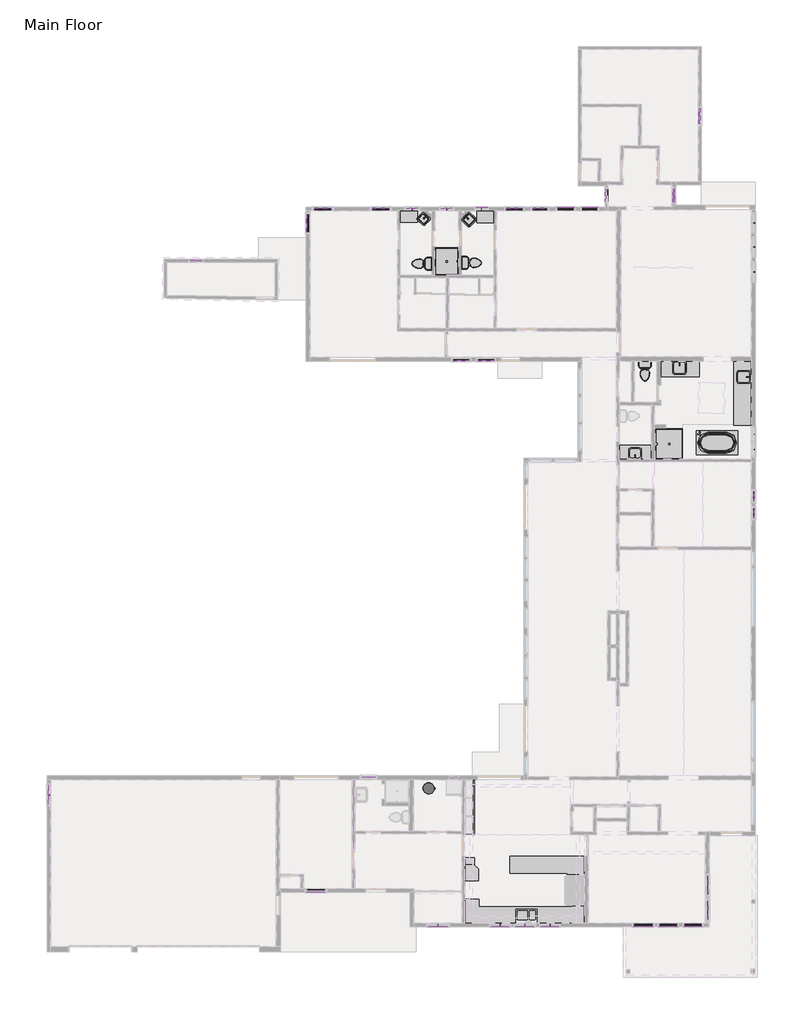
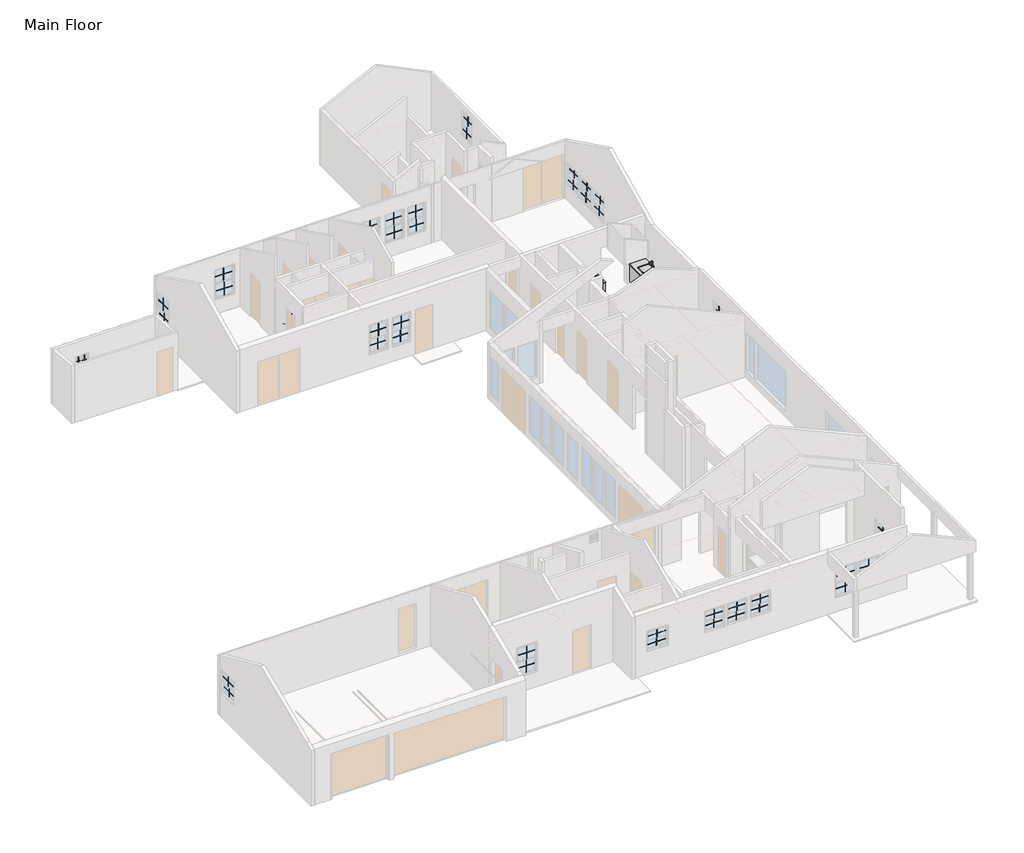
# One storey, part 7 of 7: 79 proxies, 11 flow terminals.
"""IFC4 building model written with IfcOpenShell, lengths in millimetres."""

from ifc_helpers import new_model, si_unit, origin, place, context, project, spatial, transform, mapped, element, save
from components import countertop_corner_shape_base_default_1_5ff81953, countertop_rectangle_shape_base_default_1_f55037a1, countertop_rectangle_shape_base_default_1_9c101704, countertop_rectangle_shape_base_default_1_0ea1dead, countertop_rectangle_shape_base_default_1_eeff67ab, countertop_rectangle_shape_base_default_1_e193b94f, countertop_rectangle_shape_base_default_1_9bd07cfa, countertop_rectangle_shape_base_default_1_c1775fbe, countertop_u_shape_base_default_1_79f53b93, default_1_c051f466, hot_water_heater_default_1_f8e76a24, muntin_pattern_2x2_muntin_pattern_2x2_b8ba09c9, muntin_pattern_2x2_muntin_pattern_2x2_ce8df0db, muntin_pattern_2x2_muntin_pattern_2x2_b7d8ecc0, muntin_pattern_2x2_muntin_pattern_2x2_f7ef5741, muntin_pattern_2x2_muntin_pattern_2x2_0d29cc6d, muntin_pattern_2x2_muntin_pattern_2x2_e32dc648, muntin_pattern_2x2_muntin_pattern_2x2_d0d6a7fa, muntin_pattern_2x2_muntin_pattern_2x2_25a0df6c, muntin_pattern_2x2_muntin_pattern_2x2_a7549ec0, muntin_pattern_2x2_muntin_pattern_2x2_6fe0be13, muntin_pattern_2x2_muntin_pattern_2x2_e23ef482, muntin_pattern_2x2_muntin_pattern_2x2_e6411d05, muntin_pattern_2x2_muntin_pattern_2x2_962a584f, muntin_pattern_2x2_muntin_pattern_2x2_d71a372d, muntin_pattern_2x2_muntin_pattern_2x2_4ae90856, muntin_pattern_2x2_muntin_pattern_2x2_d55a54ed, muntin_pattern_2x2_muntin_pattern_2x2_64ee3ad5, muntin_pattern_2x2_muntin_pattern_2x2_c450b4c2, muntin_pattern_2x2_muntin_pattern_2x2_9d8ca844, bath_shower_basin_rectangular_default_1_b7830e28, bath_shower_basin_rectangular_default_1_5c73739b, bath_basin_do_not_use_500_x_440mm_3081fc1e, bath_basin_do_not_use_500_x_440mm_e641f4fc, bath_basin_do_not_use_500_x_440mm_190d0d28, bath_basin_do_not_use_500_x_440mm_d66f773a, bath_bathtub_angled_default_1_4eb5927c, default_1_a9700879, toilet_default_1_5cb52bd4, toilet_default_1_183bbd19

model = new_model("IFC4")

# Units and contexts
model_context = context("Model", 3, world=origin())
ifc_project = project(units=[si_unit("LENGTHUNIT", "METRE", prefix="MILLI")], contexts=[model_context])

# Site, building, storey
site = spatial("IfcSite", under=ifc_project)
building = spatial("IfcBuilding", under=site)
storey = spatial("IfcBuildingStorey", under=building, Name="Main Floor", Elevation=0.0)

# Proxies
placement = place(None, origin())
countertop_corner_shape_base_default_1_shape = countertop_corner_shape_base_default_1_5ff81953(model_context)
element("IfcBuildingElementProxy", 1, Name="Countertop- Corner, Shape base : Default 1", ObjectType="Countertop- Corner, Shape base : Default 1", at=placement, inside=storey, context=model_context, shape_type="MappedRepresentation", body=[
    mapped(countertop_corner_shape_base_default_1_shape, transform((3895.0343008, -7499.9247068, 0.0), x_axis=(1.0, 0.0, 0.0), y_axis=(0.0, 1.0, 0.0), z_axis=(0.0, 0.0, 1.0))),
])
countertop_rectangle_shape_base_default_1_shape = countertop_rectangle_shape_base_default_1_f55037a1(model_context)
element("IfcBuildingElementProxy", 2, Name="Countertop- Rectangle shape base : Default 1", ObjectType="Countertop- Rectangle shape base : Default 1", at=placement, inside=storey, context=model_context, shape_type="MappedRepresentation", body=[
    mapped(countertop_rectangle_shape_base_default_1_shape, transform((14230.1593008, 13293.1502932, 0.0), x_axis=(-1.0, 0.0, 0.0), y_axis=(0.0, -1.0, 0.0), z_axis=(0.0, 0.0, 1.0))),
])
countertop_rectangle_shape_base_default_1_2_shape = countertop_rectangle_shape_base_default_1_9c101704(model_context)
element("IfcBuildingElementProxy", 3, Name="Countertop- Rectangle shape base : Default 1", ObjectType="Countertop- Rectangle shape base : Default 1", at=placement, inside=storey, context=model_context, shape_type="MappedRepresentation", body=[
    mapped(countertop_rectangle_shape_base_default_1_2_shape, transform((1873.0593008, 18614.4502932, 0.0), x_axis=(1.0, 0.0, 0.0), y_axis=(0.0, 1.0, 0.0), z_axis=(0.0, 0.0, 1.0))),
])
countertop_rectangle_shape_base_default_1_3_shape = countertop_rectangle_shape_base_default_1_0ea1dead(model_context)
element("IfcBuildingElementProxy", 4, Name="Countertop- Rectangle shape base : Default 1", ObjectType="Countertop- Rectangle shape base : Default 1", at=placement, inside=storey, context=model_context, shape_type="MappedRepresentation", body=[
    mapped(countertop_rectangle_shape_base_default_1_3_shape, transform((6470.4593008, 19363.7502932, 0.0), x_axis=(-1.0, 0.0, 0.0), y_axis=(0.0, -1.0, 0.0), z_axis=(0.0, 0.0, 1.0))),
])
countertop_rectangle_shape_base_default_1_4_shape = countertop_rectangle_shape_base_default_1_eeff67ab(model_context)
element("IfcBuildingElementProxy", 5, Name="Countertop- Rectangle shape base : Default 1", ObjectType="Countertop- Rectangle shape base : Default 1", at=placement, inside=storey, context=model_context, shape_type="MappedRepresentation", body=[
    mapped(countertop_rectangle_shape_base_default_1_4_shape, transform((16354.2343008, 11181.7752932, 0.0), x_axis=(0.0, 1.0, 0.0), y_axis=(-1.0, 0.0, 0.0), z_axis=(0.0, 0.0, 1.0))),
])
countertop_rectangle_shape_base_default_1_5_shape = countertop_rectangle_shape_base_default_1_e193b94f(model_context)
element("IfcBuildingElementProxy", 6, Name="Countertop- Rectangle shape base : Default 1", ObjectType="Countertop- Rectangle shape base : Default 1", at=placement, inside=storey, context=model_context, shape_type="MappedRepresentation", body=[
    mapped(countertop_rectangle_shape_base_default_1_5_shape, transform((10928.1593008, 9184.7002932, 0.0), x_axis=(1.0, 0.0, 0.0), y_axis=(0.0, 1.0, 0.0), z_axis=(0.0, 0.0, 1.0))),
])
countertop_rectangle_shape_base_default_1_6_shape = countertop_rectangle_shape_base_default_1_9bd07cfa(model_context)
element("IfcBuildingElementProxy", 7, Name="Countertop- Rectangle shape base : Default 1", ObjectType="Countertop- Rectangle shape base : Default 1", at=placement, inside=storey, context=model_context, shape_type="MappedRepresentation", body=[
    mapped(countertop_rectangle_shape_base_default_1_6_shape, transform((4308.2809835, -7122.0997068, 0.0), x_axis=(1.0, 0.0, 0.0), y_axis=(0.0, 1.0, 0.0), z_axis=(0.0, 0.0, 1.0))),
])
countertop_rectangle_shape_base_default_1_7_shape = countertop_rectangle_shape_base_default_1_c1775fbe(model_context)
element("IfcBuildingElementProxy", 8, Name="Countertop- Rectangle shape base : Default 1", ObjectType="Countertop- Rectangle shape base : Default 1", at=placement, inside=storey, context=model_context, shape_type="MappedRepresentation", body=[
    mapped(countertop_rectangle_shape_base_default_1_7_shape, transform((4689.2843008, -3807.3997068, 0.0), x_axis=(0.0, -1.0, 0.0), y_axis=(1.0, 0.0, 0.0), z_axis=(0.0, 0.0, 1.0))),
])
countertop_u_shape_base_default_1_shape = countertop_u_shape_base_default_1_79f53b93(model_context)
element("IfcBuildingElementProxy", 9, Name="Countertop- U Shape base : Default 1", ObjectType="Countertop- U Shape base : Default 1", at=placement, inside=storey, context=model_context, shape_type="MappedRepresentation", body=[
    mapped(countertop_u_shape_base_default_1_shape, transform((7654.2343008, -9201.7247068, 0.0), x_axis=(1.0, 0.0, 0.0), y_axis=(0.0, 1.0, 0.0), z_axis=(0.0, 0.0, 1.0))),
])
default_1_shape = default_1_c051f466(model_context)
element("IfcBuildingElementProxy", 10, Name="Countertop- L  Shape base : Default 1", ObjectType="Countertop- L  Shape base : Default 1", at=placement, inside=storey, context=model_context, shape_type="MappedRepresentation", body=[
    mapped(default_1_shape, transform((8214.0343008, -6560.1247068, 0.0), x_axis=(-1.0, 0.0, 0.0), y_axis=(0.0, -1.0, 0.0), z_axis=(0.0, 0.0, 1.0))),
])
hot_water_heater_default_1_shape = hot_water_heater_default_1_f8e76a24(model_context)
element("IfcBuildingElementProxy", 11, Name="Hot Water Heater : Default 1", ObjectType="Hot Water Heater : Default 1", at=placement, inside=storey, context=model_context, shape_type="MappedRepresentation", body=[
    mapped(hot_water_heater_default_1_shape, transform((3438.3343008, -3829.6247068, 0.0), x_axis=(0.0, 1.0, 0.0), y_axis=(-1.0, 0.0, 0.0), z_axis=(0.0, 0.0, 1.0))),
])
muntin_pattern_2x2_muntin_pattern_2x2_shape = muntin_pattern_2x2_muntin_pattern_2x2_b8ba09c9(model_context)
element("IfcBuildingElementProxy", 12, Name="Muntin Pattern_2x2 : Muntin Pattern_2x2", ObjectType="Muntin Pattern_2x2 : Muntin Pattern_2x2", at=placement, inside=storey, context=model_context, shape_type="MappedRepresentation", body=[
    mapped(muntin_pattern_2x2_muntin_pattern_2x2_shape, transform((14280.9593008, 22980.9081932, 1749.425), x_axis=(0.0, -1.0, 0.0), y_axis=(1.0, 0.0, 0.0), z_axis=(0.0, 0.0, 1.0))),
])
element("IfcBuildingElementProxy", 13, Name="Muntin Pattern_2x2 : Muntin Pattern_2x2", ObjectType="Muntin Pattern_2x2 : Muntin Pattern_2x2", at=placement, inside=storey, context=model_context, shape_type="MappedRepresentation", body=[
    mapped(muntin_pattern_2x2_muntin_pattern_2x2_shape, transform((14236.5093008, 22980.9081932, 1219.2), x_axis=(0.0, -1.0, 0.0), y_axis=(1.0, 0.0, 0.0), z_axis=(0.0, 0.0, 1.0))),
])
muntin_pattern_2x2_muntin_pattern_2x2_2_shape = muntin_pattern_2x2_muntin_pattern_2x2_ce8df0db(model_context)
element("IfcBuildingElementProxy", 14, Name="Muntin Pattern_2x2 : Muntin Pattern_2x2", ObjectType="Muntin Pattern_2x2 : Muntin Pattern_2x2", at=placement, inside=storey, context=model_context, shape_type="MappedRepresentation", body=[
    mapped(muntin_pattern_2x2_muntin_pattern_2x2_2_shape, transform((13258.6093008, 19814.3942932, 1787.525), x_axis=(0.0, -1.0, 0.0), y_axis=(1.0, 0.0, 0.0), z_axis=(0.0, 0.0, 1.0))),
])
element("IfcBuildingElementProxy", 15, Name="Muntin Pattern_2x2 : Muntin Pattern_2x2", ObjectType="Muntin Pattern_2x2 : Muntin Pattern_2x2", at=placement, inside=storey, context=model_context, shape_type="MappedRepresentation", body=[
    mapped(muntin_pattern_2x2_muntin_pattern_2x2_2_shape, transform((13214.1593008, 19814.3942932, 1473.2), x_axis=(0.0, -1.0, 0.0), y_axis=(1.0, 0.0, 0.0), z_axis=(0.0, 0.0, 1.0))),
])
muntin_pattern_2x2_muntin_pattern_2x2_3_shape = muntin_pattern_2x2_muntin_pattern_2x2_b7d8ecc0(model_context)
element("IfcBuildingElementProxy", 16, Name="Muntin Pattern_2x2 : Muntin Pattern_2x2", ObjectType="Muntin Pattern_2x2 : Muntin Pattern_2x2", at=placement, inside=storey, context=model_context, shape_type="MappedRepresentation", body=[
    mapped(muntin_pattern_2x2_muntin_pattern_2x2_3_shape, transform((10521.7593008, 19812.0714932, 1495.425), x_axis=(0.0, 1.0, 0.0), y_axis=(-1.0, 0.0, 0.0), z_axis=(0.0, 0.0, 1.0))),
])
element("IfcBuildingElementProxy", 17, Name="Muntin Pattern_2x2 : Muntin Pattern_2x2", ObjectType="Muntin Pattern_2x2 : Muntin Pattern_2x2", at=placement, inside=storey, context=model_context, shape_type="MappedRepresentation", body=[
    mapped(muntin_pattern_2x2_muntin_pattern_2x2_3_shape, transform((10566.2093008, 19812.0714932, 889.0), x_axis=(0.0, 1.0, 0.0), y_axis=(-1.0, 0.0, 0.0), z_axis=(0.0, 0.0, 1.0))),
])
muntin_pattern_2x2_muntin_pattern_2x2_4_shape = muntin_pattern_2x2_muntin_pattern_2x2_f7ef5741(model_context)
element("IfcBuildingElementProxy", 18, Name="Muntin Pattern_2x2 : Muntin Pattern_2x2", ObjectType="Muntin Pattern_2x2 : Muntin Pattern_2x2", at=placement, inside=storey, context=model_context, shape_type="MappedRepresentation", body=[
    mapped(muntin_pattern_2x2_muntin_pattern_2x2_4_shape, transform((8908.7847008, 19319.3002932, 1343.025), x_axis=(1.0, 0.0, 0.0), y_axis=(0.0, 1.0, 0.0), z_axis=(0.0, 0.0, 1.0))),
])
element("IfcBuildingElementProxy", 19, Name="Muntin Pattern_2x2 : Muntin Pattern_2x2", ObjectType="Muntin Pattern_2x2 : Muntin Pattern_2x2", at=placement, inside=storey, context=model_context, shape_type="MappedRepresentation", body=[
    mapped(muntin_pattern_2x2_muntin_pattern_2x2_4_shape, transform((8908.7847008, 19274.8502932, 736.6), x_axis=(1.0, 0.0, 0.0), y_axis=(0.0, 1.0, 0.0), z_axis=(0.0, 0.0, 1.0))),
])
element("IfcBuildingElementProxy", 20, Name="Muntin Pattern_2x2 : Muntin Pattern_2x2", ObjectType="Muntin Pattern_2x2 : Muntin Pattern_2x2", at=placement, inside=storey, context=model_context, shape_type="MappedRepresentation", body=[
    mapped(muntin_pattern_2x2_muntin_pattern_2x2_4_shape, transform((6863.6860008, 19319.3002932, 1343.025), x_axis=(1.0, 0.0, 0.0), y_axis=(0.0, 1.0, 0.0), z_axis=(0.0, 0.0, 1.0))),
])
element("IfcBuildingElementProxy", 21, Name="Muntin Pattern_2x2 : Muntin Pattern_2x2", ObjectType="Muntin Pattern_2x2 : Muntin Pattern_2x2", at=placement, inside=storey, context=model_context, shape_type="MappedRepresentation", body=[
    mapped(muntin_pattern_2x2_muntin_pattern_2x2_4_shape, transform((6863.6860008, 19274.8502932, 736.6), x_axis=(1.0, 0.0, 0.0), y_axis=(0.0, 1.0, 0.0), z_axis=(0.0, 0.0, 1.0))),
])
muntin_pattern_2x2_muntin_pattern_2x2_5_shape = muntin_pattern_2x2_muntin_pattern_2x2_0d29cc6d(model_context)
element("IfcBuildingElementProxy", 22, Name="Muntin Pattern_2x2 : Muntin Pattern_2x2", ObjectType="Muntin Pattern_2x2 : Muntin Pattern_2x2", at=placement, inside=storey, context=model_context, shape_type="MappedRepresentation", body=[
    mapped(muntin_pattern_2x2_muntin_pattern_2x2_5_shape, transform((9864.6013008, 19319.3002932, 1343.025), x_axis=(1.0, 0.0, 0.0), y_axis=(0.0, 1.0, 0.0), z_axis=(0.0, 0.0, 1.0))),
])
element("IfcBuildingElementProxy", 23, Name="Muntin Pattern_2x2 : Muntin Pattern_2x2", ObjectType="Muntin Pattern_2x2 : Muntin Pattern_2x2", at=placement, inside=storey, context=model_context, shape_type="MappedRepresentation", body=[
    mapped(muntin_pattern_2x2_muntin_pattern_2x2_5_shape, transform((9864.6013008, 19274.8502932, 736.6), x_axis=(1.0, 0.0, 0.0), y_axis=(0.0, 1.0, 0.0), z_axis=(0.0, 0.0, 1.0))),
])
element("IfcBuildingElementProxy", 24, Name="Muntin Pattern_2x2 : Muntin Pattern_2x2", ObjectType="Muntin Pattern_2x2 : Muntin Pattern_2x2", at=placement, inside=storey, context=model_context, shape_type="MappedRepresentation", body=[
    mapped(muntin_pattern_2x2_muntin_pattern_2x2_5_shape, transform((7877.3708008, 19319.3002932, 1343.025), x_axis=(1.0, 0.0, 0.0), y_axis=(0.0, 1.0, 0.0), z_axis=(0.0, 0.0, 1.0))),
])
element("IfcBuildingElementProxy", 25, Name="Muntin Pattern_2x2 : Muntin Pattern_2x2", ObjectType="Muntin Pattern_2x2 : Muntin Pattern_2x2", at=placement, inside=storey, context=model_context, shape_type="MappedRepresentation", body=[
    mapped(muntin_pattern_2x2_muntin_pattern_2x2_5_shape, transform((7877.3708008, 19274.8502932, 736.6), x_axis=(1.0, 0.0, 0.0), y_axis=(0.0, 1.0, 0.0), z_axis=(0.0, 0.0, 1.0))),
])
muntin_pattern_2x2_muntin_pattern_2x2_6_shape = muntin_pattern_2x2_muntin_pattern_2x2_e32dc648(model_context)
element("IfcBuildingElementProxy", 26, Name="Muntin Pattern_2x2 : Muntin Pattern_2x2", ObjectType="Muntin Pattern_2x2 : Muntin Pattern_2x2", at=placement, inside=storey, context=model_context, shape_type="MappedRepresentation", body=[
    mapped(muntin_pattern_2x2_muntin_pattern_2x2_6_shape, transform((5547.7620008, 19319.3002932, 1609.725), x_axis=(1.0, 0.0, 0.0), y_axis=(0.0, 1.0, 0.0), z_axis=(0.0, 0.0, 1.0))),
])
element("IfcBuildingElementProxy", 27, Name="Muntin Pattern_2x2 : Muntin Pattern_2x2", ObjectType="Muntin Pattern_2x2 : Muntin Pattern_2x2", at=placement, inside=storey, context=model_context, shape_type="MappedRepresentation", body=[
    mapped(muntin_pattern_2x2_muntin_pattern_2x2_6_shape, transform((5547.7620008, 19274.8502932, 1168.4), x_axis=(1.0, 0.0, 0.0), y_axis=(0.0, 1.0, 0.0), z_axis=(0.0, 0.0, 1.0))),
])
element("IfcBuildingElementProxy", 28, Name="Muntin Pattern_2x2 : Muntin Pattern_2x2", ObjectType="Muntin Pattern_2x2 : Muntin Pattern_2x2", at=placement, inside=storey, context=model_context, shape_type="MappedRepresentation", body=[
    mapped(muntin_pattern_2x2_muntin_pattern_2x2_6_shape, transform((4162.4188008, 19319.3002932, 1609.725), x_axis=(1.0, 0.0, 0.0), y_axis=(0.0, 1.0, 0.0), z_axis=(0.0, 0.0, 1.0))),
])
element("IfcBuildingElementProxy", 29, Name="Muntin Pattern_2x2 : Muntin Pattern_2x2", ObjectType="Muntin Pattern_2x2 : Muntin Pattern_2x2", at=placement, inside=storey, context=model_context, shape_type="MappedRepresentation", body=[
    mapped(muntin_pattern_2x2_muntin_pattern_2x2_6_shape, transform((4162.4188008, 19274.8502932, 1168.4), x_axis=(1.0, 0.0, 0.0), y_axis=(0.0, 1.0, 0.0), z_axis=(0.0, 0.0, 1.0))),
])
element("IfcBuildingElementProxy", 30, Name="Muntin Pattern_2x2 : Muntin Pattern_2x2", ObjectType="Muntin Pattern_2x2 : Muntin Pattern_2x2", at=placement, inside=storey, context=model_context, shape_type="MappedRepresentation", body=[
    mapped(muntin_pattern_2x2_muntin_pattern_2x2_6_shape, transform((2779.9500008, 19319.3002932, 1609.725), x_axis=(1.0, 0.0, 0.0), y_axis=(0.0, 1.0, 0.0), z_axis=(0.0, 0.0, 1.0))),
])
element("IfcBuildingElementProxy", 31, Name="Muntin Pattern_2x2 : Muntin Pattern_2x2", ObjectType="Muntin Pattern_2x2 : Muntin Pattern_2x2", at=placement, inside=storey, context=model_context, shape_type="MappedRepresentation", body=[
    mapped(muntin_pattern_2x2_muntin_pattern_2x2_6_shape, transform((2779.9500008, 19274.8502932, 1168.4), x_axis=(1.0, 0.0, 0.0), y_axis=(0.0, 1.0, 0.0), z_axis=(0.0, 0.0, 1.0))),
])
muntin_pattern_2x2_muntin_pattern_2x2_7_shape = muntin_pattern_2x2_muntin_pattern_2x2_d0d6a7fa(model_context)
element("IfcBuildingElementProxy", 32, Name="Muntin Pattern_2x2 : Muntin Pattern_2x2", ObjectType="Muntin Pattern_2x2 : Muntin Pattern_2x2", at=placement, inside=storey, context=model_context, shape_type="MappedRepresentation", body=[
    mapped(muntin_pattern_2x2_muntin_pattern_2x2_7_shape, transform((1525.9622008, 19319.3002932, 1368.425), x_axis=(1.0, 0.0, 0.0), y_axis=(0.0, 1.0, 0.0), z_axis=(0.0, 0.0, 1.0))),
])
element("IfcBuildingElementProxy", 33, Name="Muntin Pattern_2x2 : Muntin Pattern_2x2", ObjectType="Muntin Pattern_2x2 : Muntin Pattern_2x2", at=placement, inside=storey, context=model_context, shape_type="MappedRepresentation", body=[
    mapped(muntin_pattern_2x2_muntin_pattern_2x2_7_shape, transform((1525.9622008, 19274.8502932, 736.6), x_axis=(1.0, 0.0, 0.0), y_axis=(0.0, 1.0, 0.0), z_axis=(0.0, 0.0, 1.0))),
])
element("IfcBuildingElementProxy", 34, Name="Muntin Pattern_2x2 : Muntin Pattern_2x2", ObjectType="Muntin Pattern_2x2 : Muntin Pattern_2x2", at=placement, inside=storey, context=model_context, shape_type="MappedRepresentation", body=[
    mapped(muntin_pattern_2x2_muntin_pattern_2x2_7_shape, transform((-780.9043992, 19319.3002932, 1368.425), x_axis=(1.0, 0.0, 0.0), y_axis=(0.0, 1.0, 0.0), z_axis=(0.0, 0.0, 1.0))),
])
element("IfcBuildingElementProxy", 35, Name="Muntin Pattern_2x2 : Muntin Pattern_2x2", ObjectType="Muntin Pattern_2x2 : Muntin Pattern_2x2", at=placement, inside=storey, context=model_context, shape_type="MappedRepresentation", body=[
    mapped(muntin_pattern_2x2_muntin_pattern_2x2_7_shape, transform((-780.9043992, 19274.8502932, 736.6), x_axis=(1.0, 0.0, 0.0), y_axis=(0.0, 1.0, 0.0), z_axis=(0.0, 0.0, 1.0))),
])
element("IfcBuildingElementProxy", 36, Name="Muntin Pattern_2x2 : Muntin Pattern_2x2", ObjectType="Muntin Pattern_2x2 : Muntin Pattern_2x2", at=placement, inside=storey, context=model_context, shape_type="MappedRepresentation", body=[
    mapped(muntin_pattern_2x2_muntin_pattern_2x2_7_shape, transform((-1416.2406992, 18706.2062932, 1368.425), x_axis=(0.0, 1.0, 0.0), y_axis=(-1.0, 0.0, 0.0), z_axis=(0.0, 0.0, 1.0))),
])
element("IfcBuildingElementProxy", 37, Name="Muntin Pattern_2x2 : Muntin Pattern_2x2", ObjectType="Muntin Pattern_2x2 : Muntin Pattern_2x2", at=placement, inside=storey, context=model_context, shape_type="MappedRepresentation", body=[
    mapped(muntin_pattern_2x2_muntin_pattern_2x2_7_shape, transform((-1371.7906992, 18706.2062932, 736.6), x_axis=(0.0, 1.0, 0.0), y_axis=(-1.0, 0.0, 0.0), z_axis=(0.0, 0.0, 1.0))),
])
element("IfcBuildingElementProxy", 38, Name="Muntin Pattern_2x2 : Muntin Pattern_2x2", ObjectType="Muntin Pattern_2x2 : Muntin Pattern_2x2", at=placement, inside=storey, context=model_context, shape_type="MappedRepresentation", body=[
    mapped(muntin_pattern_2x2_muntin_pattern_2x2_7_shape, transform((-1050.9799992, -7941.2497068, 1419.225), x_axis=(-1.0, 0.0, 0.0), y_axis=(0.0, -1.0, 0.0), z_axis=(0.0, 0.0, 1.0))),
])
element("IfcBuildingElementProxy", 39, Name="Muntin Pattern_2x2 : Muntin Pattern_2x2", ObjectType="Muntin Pattern_2x2 : Muntin Pattern_2x2", at=placement, inside=storey, context=model_context, shape_type="MappedRepresentation", body=[
    mapped(muntin_pattern_2x2_muntin_pattern_2x2_7_shape, transform((-1050.9799992, -7896.7997068, 787.4), x_axis=(-1.0, 0.0, 0.0), y_axis=(0.0, -1.0, 0.0), z_axis=(0.0, 0.0, 1.0))),
])
muntin_pattern_2x2_muntin_pattern_2x2_8_shape = muntin_pattern_2x2_muntin_pattern_2x2_25a0df6c(model_context)
element("IfcBuildingElementProxy", 40, Name="Muntin Pattern_2x2 : Muntin Pattern_2x2", ObjectType="Muntin Pattern_2x2 : Muntin Pattern_2x2", at=placement, inside=storey, context=model_context, shape_type="MappedRepresentation", body=[
    mapped(muntin_pattern_2x2_muntin_pattern_2x2_8_shape, transform((-5726.296377, 17217.4502932, 1301.75), x_axis=(1.0, 0.0, 0.0), y_axis=(0.0, 1.0, 0.0), z_axis=(0.0, 0.0, 1.0))),
])
element("IfcBuildingElementProxy", 41, Name="Muntin Pattern_2x2 : Muntin Pattern_2x2", ObjectType="Muntin Pattern_2x2 : Muntin Pattern_2x2", at=placement, inside=storey, context=model_context, shape_type="MappedRepresentation", body=[
    mapped(muntin_pattern_2x2_muntin_pattern_2x2_8_shape, transform((-5964.421377, 17261.9002932, 1301.75), x_axis=(1.0, 0.0, 0.0), y_axis=(0.0, 1.0, 0.0), z_axis=(0.0, 0.0, 1.0))),
])
muntin_pattern_2x2_muntin_pattern_2x2_9_shape = muntin_pattern_2x2_muntin_pattern_2x2_a7549ec0(model_context)
element("IfcBuildingElementProxy", 42, Name="Muntin Pattern_2x2 : Muntin Pattern_2x2", ObjectType="Muntin Pattern_2x2 : Muntin Pattern_2x2", at=placement, inside=storey, context=model_context, shape_type="MappedRepresentation", body=[
    mapped(muntin_pattern_2x2_muntin_pattern_2x2_9_shape, transform((4737.2598008, 13242.3502932, 1368.425), x_axis=(-1.0, 0.0, 0.0), y_axis=(0.0, -1.0, 0.0), z_axis=(0.0, 0.0, 1.0))),
])
element("IfcBuildingElementProxy", 43, Name="Muntin Pattern_2x2 : Muntin Pattern_2x2", ObjectType="Muntin Pattern_2x2 : Muntin Pattern_2x2", at=placement, inside=storey, context=model_context, shape_type="MappedRepresentation", body=[
    mapped(muntin_pattern_2x2_muntin_pattern_2x2_9_shape, transform((4737.2598008, 13286.8002932, 736.6), x_axis=(-1.0, 0.0, 0.0), y_axis=(0.0, -1.0, 0.0), z_axis=(0.0, 0.0, 1.0))),
])
element("IfcBuildingElementProxy", 44, Name="Muntin Pattern_2x2 : Muntin Pattern_2x2", ObjectType="Muntin Pattern_2x2 : Muntin Pattern_2x2", at=placement, inside=storey, context=model_context, shape_type="MappedRepresentation", body=[
    mapped(muntin_pattern_2x2_muntin_pattern_2x2_9_shape, transform((5727.7196008, 13242.3502932, 1368.425), x_axis=(-1.0, 0.0, 0.0), y_axis=(0.0, -1.0, 0.0), z_axis=(0.0, 0.0, 1.0))),
])
element("IfcBuildingElementProxy", 45, Name="Muntin Pattern_2x2 : Muntin Pattern_2x2", ObjectType="Muntin Pattern_2x2 : Muntin Pattern_2x2", at=placement, inside=storey, context=model_context, shape_type="MappedRepresentation", body=[
    mapped(muntin_pattern_2x2_muntin_pattern_2x2_9_shape, transform((5727.7196008, 13286.8002932, 736.6), x_axis=(-1.0, 0.0, 0.0), y_axis=(0.0, -1.0, 0.0), z_axis=(0.0, 0.0, 1.0))),
])
muntin_pattern_2x2_muntin_pattern_2x2_10_shape = muntin_pattern_2x2_muntin_pattern_2x2_6fe0be13(model_context)
element("IfcBuildingElementProxy", 46, Name="Muntin Pattern_2x2 : Muntin Pattern_2x2", ObjectType="Muntin Pattern_2x2 : Muntin Pattern_2x2", at=placement, inside=storey, context=model_context, shape_type="MappedRepresentation", body=[
    mapped(muntin_pattern_2x2_muntin_pattern_2x2_10_shape, transform((1039.8296008, -3362.8997068, 1571.625), x_axis=(1.0, 0.0, 0.0), y_axis=(0.0, 1.0, 0.0), z_axis=(0.0, 0.0, 1.0))),
])
element("IfcBuildingElementProxy", 47, Name="Muntin Pattern_2x2 : Muntin Pattern_2x2", ObjectType="Muntin Pattern_2x2 : Muntin Pattern_2x2", at=placement, inside=storey, context=model_context, shape_type="MappedRepresentation", body=[
    mapped(muntin_pattern_2x2_muntin_pattern_2x2_10_shape, transform((1039.8296008, -3407.3497068, 1143.0), x_axis=(1.0, 0.0, 0.0), y_axis=(0.0, 1.0, 0.0), z_axis=(0.0, 0.0, 1.0))),
])
muntin_pattern_2x2_muntin_pattern_2x2_11_shape = muntin_pattern_2x2_muntin_pattern_2x2_e23ef482(model_context)
element("IfcBuildingElementProxy", 48, Name="Muntin Pattern_2x2 : Muntin Pattern_2x2", ObjectType="Muntin Pattern_2x2 : Muntin Pattern_2x2", at=placement, inside=storey, context=model_context, shape_type="MappedRepresentation", body=[
    mapped(muntin_pattern_2x2_muntin_pattern_2x2_11_shape, transform((-11754.0406992, -4086.8194068, 1558.925), x_axis=(0.0, 1.0, 0.0), y_axis=(-1.0, 0.0, 0.0), z_axis=(0.0, 0.0, 1.0))),
])
element("IfcBuildingElementProxy", 49, Name="Muntin Pattern_2x2 : Muntin Pattern_2x2", ObjectType="Muntin Pattern_2x2 : Muntin Pattern_2x2", at=placement, inside=storey, context=model_context, shape_type="MappedRepresentation", body=[
    mapped(muntin_pattern_2x2_muntin_pattern_2x2_11_shape, transform((-11709.5906992, -4086.8194068, 1066.8), x_axis=(0.0, 1.0, 0.0), y_axis=(-1.0, 0.0, 0.0), z_axis=(0.0, 0.0, 1.0))),
])
muntin_pattern_2x2_muntin_pattern_2x2_12_shape = muntin_pattern_2x2_muntin_pattern_2x2_e6411d05(model_context)
element("IfcBuildingElementProxy", 50, Name="Muntin Pattern_2x2 : Muntin Pattern_2x2", ObjectType="Muntin Pattern_2x2 : Muntin Pattern_2x2", at=placement, inside=storey, context=model_context, shape_type="MappedRepresentation", body=[
    mapped(muntin_pattern_2x2_muntin_pattern_2x2_12_shape, transform((3812.3721008, -9319.1997068, 1546.225), x_axis=(-1.0, 0.0, 0.0), y_axis=(0.0, -1.0, 0.0), z_axis=(0.0, 0.0, 1.0))),
])
element("IfcBuildingElementProxy", 51, Name="Muntin Pattern_2x2 : Muntin Pattern_2x2", ObjectType="Muntin Pattern_2x2 : Muntin Pattern_2x2", at=placement, inside=storey, context=model_context, shape_type="MappedRepresentation", body=[
    mapped(muntin_pattern_2x2_muntin_pattern_2x2_12_shape, transform((3812.3721008, -9274.7497068, 1143.0), x_axis=(-1.0, 0.0, 0.0), y_axis=(0.0, -1.0, 0.0), z_axis=(0.0, 0.0, 1.0))),
])
muntin_pattern_2x2_muntin_pattern_2x2_13_shape = muntin_pattern_2x2_muntin_pattern_2x2_962a584f(model_context)
element("IfcBuildingElementProxy", 52, Name="Muntin Pattern_2x2 : Muntin Pattern_2x2", ObjectType="Muntin Pattern_2x2 : Muntin Pattern_2x2", at=placement, inside=storey, context=model_context, shape_type="MappedRepresentation", body=[
    mapped(muntin_pattern_2x2_muntin_pattern_2x2_13_shape, transform((6295.9617008, -9319.1997068, 1558.925), x_axis=(-1.0, 0.0, 0.0), y_axis=(0.0, -1.0, 0.0), z_axis=(0.0, 0.0, 1.0))),
])
element("IfcBuildingElementProxy", 53, Name="Muntin Pattern_2x2 : Muntin Pattern_2x2", ObjectType="Muntin Pattern_2x2 : Muntin Pattern_2x2", at=placement, inside=storey, context=model_context, shape_type="MappedRepresentation", body=[
    mapped(muntin_pattern_2x2_muntin_pattern_2x2_13_shape, transform((6295.9617008, -9274.7497068, 1117.6), x_axis=(-1.0, 0.0, 0.0), y_axis=(0.0, -1.0, 0.0), z_axis=(0.0, 0.0, 1.0))),
])
element("IfcBuildingElementProxy", 54, Name="Muntin Pattern_2x2 : Muntin Pattern_2x2", ObjectType="Muntin Pattern_2x2 : Muntin Pattern_2x2", at=placement, inside=storey, context=model_context, shape_type="MappedRepresentation", body=[
    mapped(muntin_pattern_2x2_muntin_pattern_2x2_13_shape, transform((7278.3001008, -9319.1997068, 1558.925), x_axis=(-1.0, 0.0, 0.0), y_axis=(0.0, -1.0, 0.0), z_axis=(0.0, 0.0, 1.0))),
])
element("IfcBuildingElementProxy", 55, Name="Muntin Pattern_2x2 : Muntin Pattern_2x2", ObjectType="Muntin Pattern_2x2 : Muntin Pattern_2x2", at=placement, inside=storey, context=model_context, shape_type="MappedRepresentation", body=[
    mapped(muntin_pattern_2x2_muntin_pattern_2x2_13_shape, transform((7278.3001008, -9274.7497068, 1117.6), x_axis=(-1.0, 0.0, 0.0), y_axis=(0.0, -1.0, 0.0), z_axis=(0.0, 0.0, 1.0))),
])
element("IfcBuildingElementProxy", 56, Name="Muntin Pattern_2x2 : Muntin Pattern_2x2", ObjectType="Muntin Pattern_2x2 : Muntin Pattern_2x2", at=placement, inside=storey, context=model_context, shape_type="MappedRepresentation", body=[
    mapped(muntin_pattern_2x2_muntin_pattern_2x2_13_shape, transform((8288.1261008, -9319.1997068, 1558.925), x_axis=(-1.0, 0.0, 0.0), y_axis=(0.0, -1.0, 0.0), z_axis=(0.0, 0.0, 1.0))),
])
element("IfcBuildingElementProxy", 57, Name="Muntin Pattern_2x2 : Muntin Pattern_2x2", ObjectType="Muntin Pattern_2x2 : Muntin Pattern_2x2", at=placement, inside=storey, context=model_context, shape_type="MappedRepresentation", body=[
    mapped(muntin_pattern_2x2_muntin_pattern_2x2_13_shape, transform((8288.1261008, -9274.7497068, 1117.6), x_axis=(-1.0, 0.0, 0.0), y_axis=(0.0, -1.0, 0.0), z_axis=(0.0, 0.0, 1.0))),
])
muntin_pattern_2x2_muntin_pattern_2x2_14_shape = muntin_pattern_2x2_muntin_pattern_2x2_d71a372d(model_context)
element("IfcBuildingElementProxy", 58, Name="Muntin Pattern_2x2 : Muntin Pattern_2x2", ObjectType="Muntin Pattern_2x2 : Muntin Pattern_2x2", at=placement, inside=storey, context=model_context, shape_type="MappedRepresentation", body=[
    mapped(muntin_pattern_2x2_muntin_pattern_2x2_14_shape, transform((12002.4043008, -9319.1997068, 1343.025), x_axis=(-1.0, 0.0, 0.0), y_axis=(0.0, -1.0, 0.0), z_axis=(0.0, 0.0, 1.0))),
])
element("IfcBuildingElementProxy", 59, Name="Muntin Pattern_2x2 : Muntin Pattern_2x2", ObjectType="Muntin Pattern_2x2 : Muntin Pattern_2x2", at=placement, inside=storey, context=model_context, shape_type="MappedRepresentation", body=[
    mapped(muntin_pattern_2x2_muntin_pattern_2x2_14_shape, transform((12002.4043008, -9274.7497068, 736.6), x_axis=(-1.0, 0.0, 0.0), y_axis=(0.0, -1.0, 0.0), z_axis=(0.0, 0.0, 1.0))),
])
element("IfcBuildingElementProxy", 60, Name="Muntin Pattern_2x2 : Muntin Pattern_2x2", ObjectType="Muntin Pattern_2x2 : Muntin Pattern_2x2", at=placement, inside=storey, context=model_context, shape_type="MappedRepresentation", body=[
    mapped(muntin_pattern_2x2_muntin_pattern_2x2_14_shape, transform((14598.4593008, -8693.6848068, 1343.025), x_axis=(0.0, -1.0, 0.0), y_axis=(1.0, 0.0, 0.0), z_axis=(0.0, 0.0, 1.0))),
])
element("IfcBuildingElementProxy", 61, Name="Muntin Pattern_2x2 : Muntin Pattern_2x2", ObjectType="Muntin Pattern_2x2 : Muntin Pattern_2x2", at=placement, inside=storey, context=model_context, shape_type="MappedRepresentation", body=[
    mapped(muntin_pattern_2x2_muntin_pattern_2x2_14_shape, transform((14554.0093008, -8693.6848068, 736.6), x_axis=(0.0, -1.0, 0.0), y_axis=(1.0, 0.0, 0.0), z_axis=(0.0, 0.0, 1.0))),
])
element("IfcBuildingElementProxy", 62, Name="Muntin Pattern_2x2 : Muntin Pattern_2x2", ObjectType="Muntin Pattern_2x2 : Muntin Pattern_2x2", at=placement, inside=storey, context=model_context, shape_type="MappedRepresentation", body=[
    mapped(muntin_pattern_2x2_muntin_pattern_2x2_14_shape, transform((14598.4593008, -7687.6128068, 1343.025), x_axis=(0.0, -1.0, 0.0), y_axis=(1.0, 0.0, 0.0), z_axis=(0.0, 0.0, 1.0))),
])
element("IfcBuildingElementProxy", 63, Name="Muntin Pattern_2x2 : Muntin Pattern_2x2", ObjectType="Muntin Pattern_2x2 : Muntin Pattern_2x2", at=placement, inside=storey, context=model_context, shape_type="MappedRepresentation", body=[
    mapped(muntin_pattern_2x2_muntin_pattern_2x2_14_shape, transform((14554.0093008, -7687.6128068, 736.6), x_axis=(0.0, -1.0, 0.0), y_axis=(1.0, 0.0, 0.0), z_axis=(0.0, 0.0, 1.0))),
])
muntin_pattern_2x2_muntin_pattern_2x2_15_shape = muntin_pattern_2x2_muntin_pattern_2x2_4ae90856(model_context)
element("IfcBuildingElementProxy", 64, Name="Muntin Pattern_2x2 : Muntin Pattern_2x2", ObjectType="Muntin Pattern_2x2 : Muntin Pattern_2x2", at=placement, inside=storey, context=model_context, shape_type="MappedRepresentation", body=[
    mapped(muntin_pattern_2x2_muntin_pattern_2x2_15_shape, transform((12997.7299008, -9319.1997068, 1343.025), x_axis=(-1.0, 0.0, 0.0), y_axis=(0.0, -1.0, 0.0), z_axis=(0.0, 0.0, 1.0))),
])
element("IfcBuildingElementProxy", 65, Name="Muntin Pattern_2x2 : Muntin Pattern_2x2", ObjectType="Muntin Pattern_2x2 : Muntin Pattern_2x2", at=placement, inside=storey, context=model_context, shape_type="MappedRepresentation", body=[
    mapped(muntin_pattern_2x2_muntin_pattern_2x2_15_shape, transform((12997.7299008, -9274.7497068, 736.6), x_axis=(-1.0, 0.0, 0.0), y_axis=(0.0, -1.0, 0.0), z_axis=(0.0, 0.0, 1.0))),
])
element("IfcBuildingElementProxy", 66, Name="Muntin Pattern_2x2 : Muntin Pattern_2x2", ObjectType="Muntin Pattern_2x2 : Muntin Pattern_2x2", at=placement, inside=storey, context=model_context, shape_type="MappedRepresentation", body=[
    mapped(muntin_pattern_2x2_muntin_pattern_2x2_15_shape, transform((13989.1931008, -9319.1997068, 1343.025), x_axis=(-1.0, 0.0, 0.0), y_axis=(0.0, -1.0, 0.0), z_axis=(0.0, 0.0, 1.0))),
])
element("IfcBuildingElementProxy", 67, Name="Muntin Pattern_2x2 : Muntin Pattern_2x2", ObjectType="Muntin Pattern_2x2 : Muntin Pattern_2x2", at=placement, inside=storey, context=model_context, shape_type="MappedRepresentation", body=[
    mapped(muntin_pattern_2x2_muntin_pattern_2x2_15_shape, transform((13989.1931008, -9274.7497068, 736.6), x_axis=(-1.0, 0.0, 0.0), y_axis=(0.0, -1.0, 0.0), z_axis=(0.0, 0.0, 1.0))),
])
muntin_pattern_2x2_muntin_pattern_2x2_16_shape = muntin_pattern_2x2_muntin_pattern_2x2_d55a54ed(model_context)
element("IfcBuildingElementProxy", 68, Name="Muntin Pattern_2x2 : Muntin Pattern_2x2", ObjectType="Muntin Pattern_2x2 : Muntin Pattern_2x2", at=placement, inside=storey, context=model_context, shape_type="MappedRepresentation", body=[
    mapped(muntin_pattern_2x2_muntin_pattern_2x2_16_shape, transform((16433.6093008, 7144.1477932, 1292.225), x_axis=(0.0, -1.0, 0.0), y_axis=(1.0, 0.0, 0.0), z_axis=(0.0, 0.0, 1.0))),
])
element("IfcBuildingElementProxy", 69, Name="Muntin Pattern_2x2 : Muntin Pattern_2x2", ObjectType="Muntin Pattern_2x2 : Muntin Pattern_2x2", at=placement, inside=storey, context=model_context, shape_type="MappedRepresentation", body=[
    mapped(muntin_pattern_2x2_muntin_pattern_2x2_16_shape, transform((16389.1593008, 7144.1477932, 533.4), x_axis=(0.0, -1.0, 0.0), y_axis=(1.0, 0.0, 0.0), z_axis=(0.0, 0.0, 1.0))),
])
element("IfcBuildingElementProxy", 70, Name="Muntin Pattern_2x2 : Muntin Pattern_2x2", ObjectType="Muntin Pattern_2x2 : Muntin Pattern_2x2", at=placement, inside=storey, context=model_context, shape_type="MappedRepresentation", body=[
    mapped(muntin_pattern_2x2_muntin_pattern_2x2_16_shape, transform((16433.6093008, 7825.5558932, 1292.225), x_axis=(0.0, -1.0, 0.0), y_axis=(1.0, 0.0, 0.0), z_axis=(0.0, 0.0, 1.0))),
])
element("IfcBuildingElementProxy", 71, Name="Muntin Pattern_2x2 : Muntin Pattern_2x2", ObjectType="Muntin Pattern_2x2 : Muntin Pattern_2x2", at=placement, inside=storey, context=model_context, shape_type="MappedRepresentation", body=[
    mapped(muntin_pattern_2x2_muntin_pattern_2x2_16_shape, transform((16389.1593008, 7825.5558932, 533.4), x_axis=(0.0, -1.0, 0.0), y_axis=(1.0, 0.0, 0.0), z_axis=(0.0, 0.0, 1.0))),
])
muntin_pattern_2x2_muntin_pattern_2x2_17_shape = muntin_pattern_2x2_muntin_pattern_2x2_64ee3ad5(model_context)
element("IfcBuildingElementProxy", 72, Name="Muntin Pattern_2x2 : Muntin Pattern_2x2", ObjectType="Muntin Pattern_2x2 : Muntin Pattern_2x2", at=placement, inside=storey, context=model_context, shape_type="MappedRepresentation", body=[
    mapped(muntin_pattern_2x2_muntin_pattern_2x2_17_shape, transform((16459.0093008, 10293.3706057, 1035.05), x_axis=(0.0, 1.0, 0.0), y_axis=(-1.0, 0.0, 0.0), z_axis=(0.0, 0.0, 1.0))),
])
muntin_pattern_2x2_muntin_pattern_2x2_18_shape = muntin_pattern_2x2_muntin_pattern_2x2_c450b4c2(model_context)
element("IfcBuildingElementProxy", 73, Name="Muntin Pattern_2x2 : Muntin Pattern_2x2", ObjectType="Muntin Pattern_2x2 : Muntin Pattern_2x2", at=placement, inside=storey, context=model_context, shape_type="MappedRepresentation", body=[
    mapped(muntin_pattern_2x2_muntin_pattern_2x2_18_shape, transform((16459.0093008, 9683.7706057, 1035.05), x_axis=(0.0, -1.0, 0.0), y_axis=(1.0, 0.0, 0.0), z_axis=(0.0, 0.0, 1.0))),
])
muntin_pattern_2x2_muntin_pattern_2x2_19_shape = muntin_pattern_2x2_muntin_pattern_2x2_9d8ca844(model_context)
element("IfcBuildingElementProxy", 74, Name="Muntin Pattern_2x2 : Muntin Pattern_2x2", ObjectType="Muntin Pattern_2x2 : Muntin Pattern_2x2", at=placement, inside=storey, context=model_context, shape_type="MappedRepresentation", body=[
    mapped(muntin_pattern_2x2_muntin_pattern_2x2_19_shape, transform((16433.6093008, 18719.2486932, 1190.625), x_axis=(0.0, -1.0, 0.0), y_axis=(1.0, 0.0, 0.0), z_axis=(0.0, 0.0, 1.0))),
])
element("IfcBuildingElementProxy", 75, Name="Muntin Pattern_2x2 : Muntin Pattern_2x2", ObjectType="Muntin Pattern_2x2 : Muntin Pattern_2x2", at=placement, inside=storey, context=model_context, shape_type="MappedRepresentation", body=[
    mapped(muntin_pattern_2x2_muntin_pattern_2x2_19_shape, transform((16389.1593008, 18719.2486932, 685.8), x_axis=(0.0, -1.0, 0.0), y_axis=(1.0, 0.0, 0.0), z_axis=(0.0, 0.0, 1.0))),
])
element("IfcBuildingElementProxy", 76, Name="Muntin Pattern_2x2 : Muntin Pattern_2x2", ObjectType="Muntin Pattern_2x2 : Muntin Pattern_2x2", at=placement, inside=storey, context=model_context, shape_type="MappedRepresentation", body=[
    mapped(muntin_pattern_2x2_muntin_pattern_2x2_19_shape, transform((16433.6093008, 17755.6723932, 1190.625), x_axis=(0.0, -1.0, 0.0), y_axis=(1.0, 0.0, 0.0), z_axis=(0.0, 0.0, 1.0))),
])
element("IfcBuildingElementProxy", 77, Name="Muntin Pattern_2x2 : Muntin Pattern_2x2", ObjectType="Muntin Pattern_2x2 : Muntin Pattern_2x2", at=placement, inside=storey, context=model_context, shape_type="MappedRepresentation", body=[
    mapped(muntin_pattern_2x2_muntin_pattern_2x2_19_shape, transform((16389.1593008, 17755.6723932, 685.8), x_axis=(0.0, -1.0, 0.0), y_axis=(1.0, 0.0, 0.0), z_axis=(0.0, 0.0, 1.0))),
])
element("IfcBuildingElementProxy", 78, Name="Muntin Pattern_2x2 : Muntin Pattern_2x2", ObjectType="Muntin Pattern_2x2 : Muntin Pattern_2x2", at=placement, inside=storey, context=model_context, shape_type="MappedRepresentation", body=[
    mapped(muntin_pattern_2x2_muntin_pattern_2x2_19_shape, transform((16433.6093008, 16763.1001932, 1190.625), x_axis=(0.0, -1.0, 0.0), y_axis=(1.0, 0.0, 0.0), z_axis=(0.0, 0.0, 1.0))),
])
element("IfcBuildingElementProxy", 79, Name="Muntin Pattern_2x2 : Muntin Pattern_2x2", ObjectType="Muntin Pattern_2x2 : Muntin Pattern_2x2", at=placement, inside=storey, context=model_context, shape_type="MappedRepresentation", body=[
    mapped(muntin_pattern_2x2_muntin_pattern_2x2_19_shape, transform((16389.1593008, 16763.1001932, 685.8), x_axis=(0.0, -1.0, 0.0), y_axis=(1.0, 0.0, 0.0), z_axis=(0.0, 0.0, 1.0))),
])

# Flow terminals
bath_shower_basin_rectangular_default_1_shape = bath_shower_basin_rectangular_default_1_b7830e28(model_context)
element("IfcFlowTerminal", 80, ObjectType="Bath- Shower - Basin Rectangular : Default 1", at=placement, inside=storey, context=model_context, shape_type="MappedRepresentation", body=[
    mapped(bath_shower_basin_rectangular_default_1_shape, transform((13039.5343008, 9905.4252932, 0.0), x_axis=(1.0, 0.0, 0.0), y_axis=(0.0, 1.0, 0.0), z_axis=(0.0, 0.0, 1.0))),
])
bath_shower_basin_rectangular_default_1_2_shape = bath_shower_basin_rectangular_default_1_5c73739b(model_context)
element("IfcFlowTerminal", 81, ObjectType="Bath- Shower - Basin Rectangular : Default 1", at=placement, inside=storey, context=model_context, shape_type="MappedRepresentation", body=[
    mapped(bath_shower_basin_rectangular_default_1_2_shape, transform((4159.0593008, 17182.5252932, 0.0), x_axis=(1.0, 0.0, 0.0), y_axis=(0.0, 1.0, 0.0), z_axis=(0.0, 0.0, 1.0))),
])
bath_basin_do_not_use_500_x_440mm_shape = bath_basin_do_not_use_500_x_440mm_3081fc1e(model_context)
element("IfcFlowTerminal", 82, ObjectType="Bath-Basin DO NOT USE : 500 x 440mm", at=placement, inside=storey, context=model_context, shape_type="MappedRepresentation", body=[
    mapped(bath_basin_do_not_use_500_x_440mm_shape, transform((13430.8450603, 13033.6298921, 152.4), x_axis=(1.0, 0.0, 0.0), y_axis=(0.0, 1.0, 0.0), z_axis=(0.0, 0.0, 1.0))),
])
bath_basin_do_not_use_500_x_440mm_2_shape = bath_basin_do_not_use_500_x_440mm_e641f4fc(model_context)
element("IfcFlowTerminal", 83, ObjectType="Bath-Basin DO NOT USE : 500 x 440mm", at=placement, inside=storey, context=model_context, shape_type="MappedRepresentation", body=[
    mapped(bath_basin_do_not_use_500_x_440mm_2_shape, transform((16110.5888997, 12591.2645337, 152.4), x_axis=(0.0, -1.0, 0.0), y_axis=(1.0, 0.0, 0.0), z_axis=(0.0, 0.0, 1.0))),
])
bath_basin_do_not_use_500_x_440mm_3_shape = bath_basin_do_not_use_500_x_440mm_190d0d28(model_context)
element("IfcFlowTerminal", 84, ObjectType="Bath-Basin DO NOT USE : 500 x 440mm", at=placement, inside=storey, context=model_context, shape_type="MappedRepresentation", body=[
    mapped(bath_basin_do_not_use_500_x_440mm_3_shape, transform((3237.7455629, 18909.9673611, 152.4), x_axis=(0.7313537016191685, -0.6819983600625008, 0.0), y_axis=(0.6819983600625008, 0.7313537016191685, 0.0), z_axis=(0.0, 0.0, 1.0))),
])
bath_basin_do_not_use_500_x_440mm_4_shape = bath_basin_do_not_use_500_x_440mm_d66f773a(model_context)
element("IfcFlowTerminal", 85, ObjectType="Bath-Basin DO NOT USE : 500 x 440mm", at=placement, inside=storey, context=model_context, shape_type="MappedRepresentation", body=[
    mapped(bath_basin_do_not_use_500_x_440mm_4_shape, transform((5000.9921985, 18879.4968214, 152.4), x_axis=(0.7071067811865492, 0.7071067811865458, 0.0), y_axis=(-0.7071067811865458, 0.7071067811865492, 0.0), z_axis=(0.0, 0.0, 1.0))),
])
bath_bathtub_angled_default_1_shape = bath_bathtub_angled_default_1_4eb5927c(model_context)
element("IfcFlowTerminal", 86, ObjectType="Bath-Bathtub Angled : Default 1", at=placement, inside=storey, context=model_context, shape_type="MappedRepresentation", body=[
    mapped(bath_bathtub_angled_default_1_shape, transform((14950.1843008, 9956.4002932, 50.8), x_axis=(0.0, 1.0, 0.0), y_axis=(-1.0, 0.0, 0.0), z_axis=(0.0, 0.0, 1.0))),
])
default_1_2_shape = default_1_a9700879(model_context)
element("IfcFlowTerminal", 87, ObjectType="Bath-Showerhead : Default 1", at=placement, inside=storey, context=model_context, shape_type="MappedRepresentation", body=[
    mapped(default_1_2_shape, transform((4632.1343008, 17188.8752932, 0.0), x_axis=(0.0, -1.0, 0.0), y_axis=(1.0, 0.0, 0.0), z_axis=(0.0, 0.0, 1.0))),
])
toilet_default_1_shape = toilet_default_1_5cb52bd4(model_context)
toilet_default_1_2_shape = toilet_default_1_183bbd19(model_context)
element("IfcFlowTerminal", 88, ObjectType="Toilet : Default 1", at=placement, inside=storey, context=model_context, shape_type="MappedRepresentation", body=[
    mapped(toilet_default_1_shape, transform((12069.0843008, 12719.3792658, 0.0), x_axis=(1.0, 0.0, 0.0), y_axis=(0.0, 1.0, 0.0), z_axis=(0.0, 0.0, 1.0))),
    mapped(toilet_default_1_2_shape, transform((12069.0843008, 12719.3792658, 0.0), x_axis=(1.0, 0.0, 0.0), y_axis=(0.0, 1.0, 0.0), z_axis=(0.0, 0.0, 1.0))),
])
element("IfcFlowTerminal", 89, ObjectType="Toilet : Default 1", at=placement, inside=storey, context=model_context, shape_type="MappedRepresentation", body=[
    mapped(toilet_default_1_shape, transform((5240.7803281, 17131.7752932, 0.0), x_axis=(0.0, 1.0, 0.0), y_axis=(-1.0, 0.0, 0.0), z_axis=(0.0, 0.0, 1.0))),
    mapped(toilet_default_1_2_shape, transform((5240.7803281, 17131.7752932, 0.0), x_axis=(0.0, 1.0, 0.0), y_axis=(-1.0, 0.0, 0.0), z_axis=(0.0, 0.0, 1.0))),
])
element("IfcFlowTerminal", 90, ObjectType="Toilet : Default 1", at=placement, inside=storey, context=model_context, shape_type="MappedRepresentation", body=[
    mapped(toilet_default_1_shape, transform((3077.2882734, 17095.7752932, 0.0), x_axis=(0.0, -1.0, 0.0), y_axis=(1.0, 0.0, 0.0), z_axis=(0.0, 0.0, 1.0))),
    mapped(toilet_default_1_2_shape, transform((3077.2882734, 17095.7752932, 0.0), x_axis=(0.0, -1.0, 0.0), y_axis=(1.0, 0.0, 0.0), z_axis=(0.0, 0.0, 1.0))),
])

save(model, "model.ifc")
